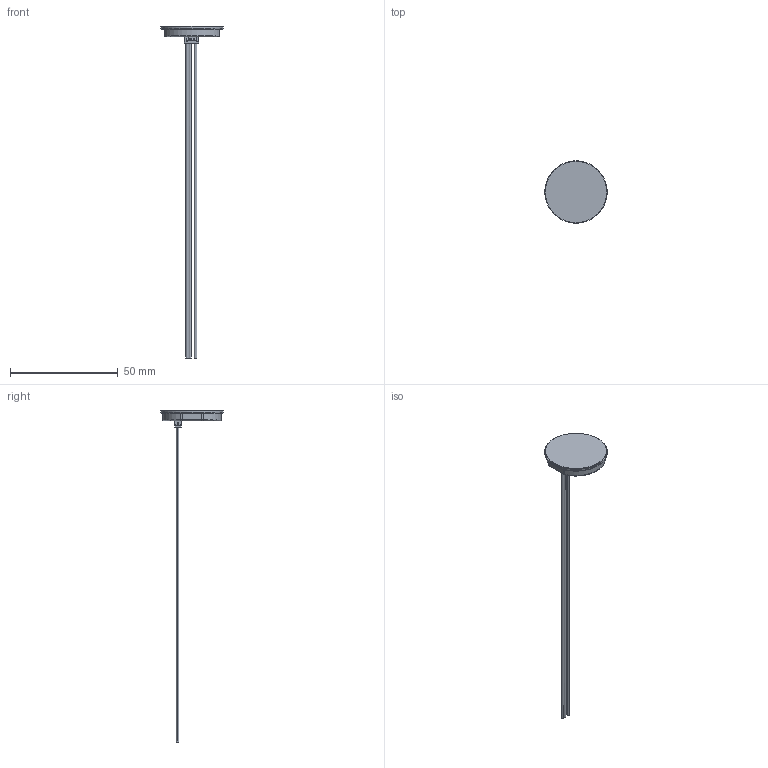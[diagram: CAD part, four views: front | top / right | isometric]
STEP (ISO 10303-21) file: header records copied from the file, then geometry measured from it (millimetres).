
FILE_DESCRIPTION((''),'2;1');
FILE_NAME('CG111A1_U7040_SW0001','2014-12-23T',('brevel'),(''),'PRO/ENGINEER BY PARAMETRIC TECHNOLOGY CORPORATION, 2013410','PRO/ENGINEER BY PARAMETRIC TECHNOLOGY CORPORATION, 2013410','');
FILE_SCHEMA(('CONFIG_CONTROL_DESIGN'));
Length unit declared in the file: millimetre
Products named in the file (1): CG111A1_U7040_SW0001
Bounding box: 29 x 29 x 154.28 mm (x, y, z)
Surface area: 4820.4 mm2 (no closed solid volume)
Topology: 0 solids, 24 shells, 90 faces, 379 edges, 311 vertices
Faces by surface type: plane 59, cylinder 17, torus 8, cone 6
Entity records: 3870 total; most frequent: CARTESIAN_POINT 780, DIRECTION 639, ORIENTED_EDGE 507, EDGE_CURVE 379, VERTEX_POINT 311, VECTOR 299, LINE 299, AXIS2_PLACEMENT_3D 170
